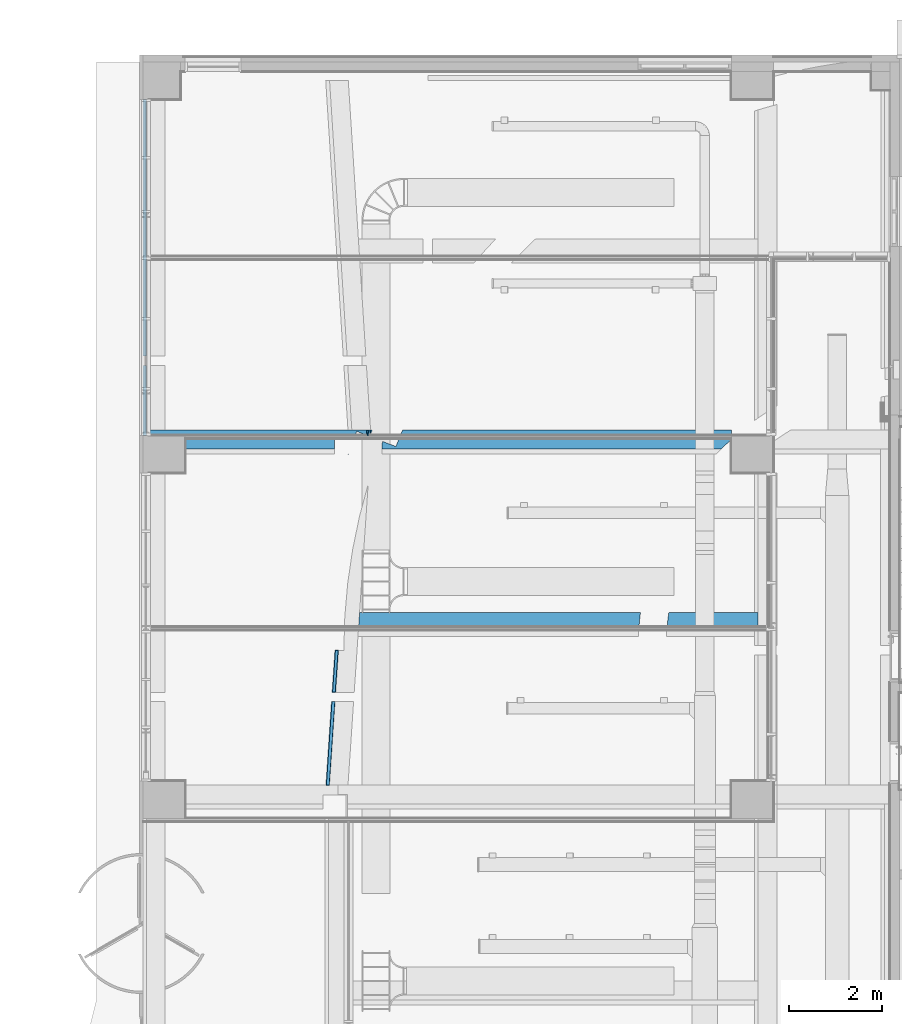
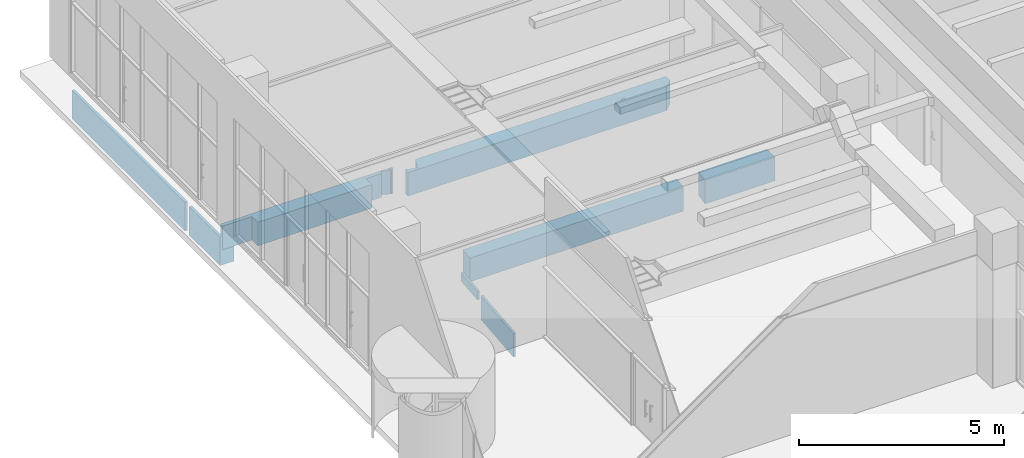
# One storey, part 56 of 100: 5 beams.
"""IFC2X3 building model written with IfcOpenShell, lengths in millimetres."""

from ifc_helpers import new_model, entity, si_unit, converted_unit, derived_unit, direction, frame, origin, place, context, subcontext, project, spatial, faceted_brep, source, transform, mapped, material, material_list, type_object, type_shapes, element, save


model = new_model("IFC2X3")

# Units and contexts
model_context = context("Model", 3, precision=0.01, world=origin(), true_north=direction((6.123031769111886e-17, 1.0)))
body_context = subcontext(model_context, "Body", "Model", "MODEL_VIEW")
ifc_project = project(units=[si_unit("LENGTHUNIT", "METRE", prefix="MILLI"), si_unit("AREAUNIT", "SQUARE_METRE"), si_unit("VOLUMEUNIT", "CUBIC_METRE"), converted_unit("PLANEANGLEUNIT", "DEGREE", entity("IfcRatioMeasure", 0.017453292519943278), si_unit("PLANEANGLEUNIT", "RADIAN"), dimensions=[0, 0, 0, 0, 0, 0, 0]), si_unit("MASSUNIT", "GRAM", prefix="KILO"), derived_unit("MASSDENSITYUNIT", [(si_unit("MASSUNIT", "GRAM", prefix="KILO"), 1), (si_unit("LENGTHUNIT", "METRE"), -3)]), derived_unit("MOMENTOFINERTIAUNIT", [(si_unit("LENGTHUNIT", "METRE"), 4)]), si_unit("TIMEUNIT", "SECOND"), si_unit("FREQUENCYUNIT", "HERTZ"), si_unit("THERMODYNAMICTEMPERATUREUNIT", "DEGREE_CELSIUS"), derived_unit("THERMALTRANSMITTANCEUNIT", [(si_unit("MASSUNIT", "GRAM", prefix="KILO"), 1), (si_unit("THERMODYNAMICTEMPERATUREUNIT", "KELVIN"), -1), (si_unit("TIMEUNIT", "SECOND"), -3)]), derived_unit("VOLUMETRICFLOWRATEUNIT", [(si_unit("LENGTHUNIT", "METRE"), 3), (si_unit("TIMEUNIT", "SECOND"), -1)]), derived_unit("MASSFLOWRATEUNIT", [(si_unit("MASSUNIT", "GRAM", prefix="KILO"), 1), (si_unit("TIMEUNIT", "SECOND"), -1)]), derived_unit("ROTATIONALFREQUENCYUNIT", [(si_unit("TIMEUNIT", "SECOND"), -1)]), si_unit("ELECTRICCURRENTUNIT", "AMPERE"), si_unit("ELECTRICVOLTAGEUNIT", "VOLT"), si_unit("POWERUNIT", "WATT"), si_unit("FORCEUNIT", "NEWTON", prefix="KILO"), si_unit("ILLUMINANCEUNIT", "LUX"), si_unit("LUMINOUSFLUXUNIT", "LUMEN"), si_unit("LUMINOUSINTENSITYUNIT", "CANDELA"), derived_unit("USERDEFINED", [(si_unit("MASSUNIT", "GRAM", prefix="KILO"), -1), (si_unit("LENGTHUNIT", "METRE"), -2), (si_unit("TIMEUNIT", "SECOND"), 3), (si_unit("LUMINOUSFLUXUNIT", "LUMEN"), 1)]), derived_unit("SOUNDPOWERUNIT", [(si_unit("MASSUNIT", "GRAM", prefix="KILO"), 1), (si_unit("LENGTHUNIT", "METRE"), 2), (si_unit("TIMEUNIT", "SECOND"), -3)]), derived_unit("SOUNDPRESSUREUNIT", [(si_unit("MASSUNIT", "GRAM", prefix="KILO"), 1), (si_unit("LENGTHUNIT", "METRE"), -1), (si_unit("TIMEUNIT", "SECOND"), -2)]), derived_unit("LINEARVELOCITYUNIT", [(si_unit("LENGTHUNIT", "METRE"), 1), (si_unit("TIMEUNIT", "SECOND"), -1)]), si_unit("PRESSUREUNIT", "PASCAL"), derived_unit("USERDEFINED", [(si_unit("LENGTHUNIT", "METRE"), -2), (si_unit("MASSUNIT", "GRAM", prefix="KILO"), 1), (si_unit("TIMEUNIT", "SECOND"), -2)]), derived_unit("LINEARFORCEUNIT", [(si_unit("MASSUNIT", "GRAM", prefix="KILO"), 1), (si_unit("LENGTHUNIT", "METRE"), 1), (si_unit("TIMEUNIT", "SECOND"), -2), (si_unit("LENGTHUNIT", "METRE"), -1)]), derived_unit("PLANARFORCEUNIT", [(si_unit("MASSUNIT", "GRAM", prefix="KILO"), 1), (si_unit("LENGTHUNIT", "METRE"), 1), (si_unit("TIMEUNIT", "SECOND"), -2), (si_unit("LENGTHUNIT", "METRE"), -2)])], contexts=[model_context])

# Site, building, storey
site_placement = place(None, frame((-14167.972527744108, -657.2125860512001, 0.0)))
site = spatial("IfcSite", under=ifc_project, at=site_placement, Name="Default", CompositionType="ELEMENT")
building_placement = place(site_placement, origin())
building = spatial("IfcBuilding", under=site, at=building_placement, Name="Sample Building", CompositionType="ELEMENT")
storey_placement = place(building_placement, origin())
storey = spatial("IfcBuildingStorey", under=building, at=storey_placement, Name="지상 1층", CompositionType="ELEMENT", Elevation=0.0)

# Beams
ifc_material = material(Name="KBIMS-콘크리트")
beam_type_1 = type_object("IfcBeamType", Name="BM111-철근콘크리트구조 보:BM110-철근 콘크리트구조 보_400 x 850_B1-1G3", PredefinedType="NOTDEFINED")
beam_1_placement = place(storey_placement, frame((14143.280586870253, 27471.077115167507, -850.0)))
element("IfcBeam", 1, at=beam_1_placement, inside=storey, type_object=beam_type_1, material=ifc_material, Name="BM111-철근콘크리트구조 보:BM110-철근 콘크리트구조 보_400 x 850_B1-1G3", ObjectType="BM111-철근콘크리트구조 보:BM110-철근 콘크리트구조 보_400 x 850_B1-1G3", context=body_context, shape_type="Brep", body=[
    faceted_brep([(4396.809318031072, 400.0, 0.0), (4314.251005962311, 400.0, 0.0), (400.0, 400.0, 0.0), (400.0, 400.0, 400.0), (0.0, 400.0, 400.0), (0.0, 400.0, 700.0), (4314.251005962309, 400.0, 700.0), (4396.809318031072, 400.0, 700.0), (4797.621306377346, 400.0, 700.0), (4797.621306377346, 400.0, 0.0), (4500.314222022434, 376.49400834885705, 0.0), (4482.945215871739, 331.3464210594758, 0.0), (4465.744698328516, 286.13550187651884, 0.0), (4024.6658619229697, 286.1355018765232, 0.0), (4024.6658619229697, 0.0, 0.0), (824.6744998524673, 0.0, 0.0), (824.6744998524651, 286.1355018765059, 0.0), (0.0, 286.1355018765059, 0.0), (0.0, 286.63548815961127, 0.0), (0.0, 286.9999862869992, 0.0), (324.7005496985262, 286.9999862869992, 0.0), (400.0, 286.9999862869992, 0.0), (4797.621306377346, 313.2726527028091, 0.0), (4792.322987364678, 299.7071077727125, 0.0), (4787.040230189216, 286.13550187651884, 0.0), (4733.887111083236, 286.13550187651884, 0.0), (824.6744998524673, 0.0, 700.0), (4024.6658619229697, 0.0, 700.0), (0.0, 286.1355018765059, 700.0), (824.6744998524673, 286.1355018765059, 700.0), (4024.6658619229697, 286.13550187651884, 700.0), (4465.744698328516, 286.13550187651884, 700.0), (4482.945215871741, 331.3464210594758, 700.0), (4500.314222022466, 376.49400834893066, 700.0), (4733.887111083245, 286.13550187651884, 700.0), (4787.0402301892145, 286.13550187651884, 700.0), (4792.322987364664, 299.70710777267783, 700.0), (4797.621306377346, 313.2726527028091, 700.0), (4500.314222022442, 376.494008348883, 451.1777741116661), (4483.398085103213, 332.5299669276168, 350.0), (4465.744698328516, 286.13550187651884, 248.82222588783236), (4792.535337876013, 300.2516833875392, 165.54916801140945), (4787.040230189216, 286.13550187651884, 175.0), (4797.621306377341, 313.27265270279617, 122.96722133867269), (4792.32298850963, 299.7071107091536, 594.8539170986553), (4797.621306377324, 313.27265270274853, 577.0327786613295), (4792.322988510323, 299.7071107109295, 402.0327786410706), (4797.621306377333, 313.2726527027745, 331.098335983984), (4797.621306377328, 313.2726527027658, 454.06555732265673), (4787.040230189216, 286.13550187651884, 577.0327786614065), (4787.040230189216, 286.13550187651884, 350.0), (4787.040230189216, 286.13550187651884, 454.06555732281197), (4792.045414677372, 298.99515736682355, 283.6587780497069), (4797.621306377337, 313.27265270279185, 208.13111464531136), (4793.163833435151, 301.863034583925, 498.44334786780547), (0.0, 286.9999862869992, 400.0), (400.0, 286.9999862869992, 400.0)], [[[0, 1, 2, 3, 4, 5, 6, 7, 8, 9]], [[10, 11, 12, 13, 14, 15, 16, 17, 18, 19, 20, 21, 2, 1, 0, 9, 22, 23, 24, 25]], [[26, 15, 14, 27]], [[5, 28, 29, 26, 27, 30, 31, 32, 33, 34, 35, 36, 37, 8, 7, 6]], [[25, 34, 33, 38, 10]], [[11, 10, 39]], [[39, 32, 31]], [[32, 39, 38]], [[40, 39, 31]], [[11, 39, 40]], [[40, 12, 11]], [[38, 39, 10]], [[38, 33, 32]], [[24, 41, 42]], [[23, 22, 43]], [[44, 45, 37, 36]], [[46, 47, 48]], [[35, 49, 44, 36]], [[50, 46, 51]], [[50, 52, 46]], [[41, 24, 23]], [[52, 41, 53]], [[44, 49, 54]], [[48, 54, 46]], [[43, 41, 23]], [[51, 54, 49]], [[41, 43, 53]], [[50, 42, 52]], [[52, 53, 47]], [[46, 52, 47]], [[41, 52, 42]], [[54, 48, 45]], [[46, 54, 51]], [[44, 54, 45]], [[17, 28, 5, 4, 55, 19, 18]], [[8, 37, 45, 48, 47, 53, 43, 22, 9]], [[17, 16, 29, 28]], [[13, 12, 40, 31, 30]], [[25, 24, 42, 50, 51, 49, 35, 34]], [[15, 26, 29, 16]], [[13, 30, 27, 14]], [[55, 56, 21, 20, 19]], [[56, 55, 4, 3]], [[21, 56, 3, 2]]]),
])
ifc_material_list_1 = material_list([ifc_material, ifc_material])
ifc_material_list_2 = material_list([ifc_material, ifc_material])
beam_type_2 = type_object("IfcBeamType", Name="BM111-철근콘크리트구조 보:BM110-철근 콘크리트구조 보_400 x 800_B1-1B2", PredefinedType="BEAM", material=ifc_material_list_2)
shared_shape_1 = source(origin(), body_context, "Body", "Brep", [
    faceted_brep([(26.84210526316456, 401.5952722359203, 0.0), (26.84210526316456, 401.5952722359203, 700.0), (6043.945265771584, 401.5952722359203, 700.0), (6043.945265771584, 401.5952722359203, 0.0), (0.0, 1.5952722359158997, 0.0), (6020.408420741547, 201.92886940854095, 0.0), (6003.46423779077, 1.5952722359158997, 0.0), (0.0, 1.5952722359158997, 700.0), (6003.46423779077, 1.5952722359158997, 700.0), (6020.408420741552, 201.92886940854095, 700.0)], [[[0, 1, 2, 3]], [[4, 0, 3, 5, 6]], [[7, 4, 6, 8]], [[4, 7, 1, 0]], [[8, 9, 2, 1, 7]], [[9, 5, 3, 2]], [[8, 6, 5, 9]]]),
    faceted_brep([(8564.681773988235, 1.5952722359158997, 700.0), (8564.681773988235, 1.5952722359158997, 0.0), (8564.681773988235, 401.5952722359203, 0.0), (8564.681773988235, 401.5952722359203, 700.0), (6605.0017498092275, 1.5952722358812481, 700.0), (6623.819216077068, 202.0066730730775, 700.0), (6623.819216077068, 202.0066730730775, 0.0), (6605.0017498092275, 1.5952722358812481, 0.0), (6649.9576495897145, 401.5952722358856, 700.0), (6649.9576495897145, 401.5952722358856, 0.0), (8489.382323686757, 401.5952722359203, 700.0), (8489.382323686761, 401.5952722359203, 0.0), (8489.382323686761, 1.5952722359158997, 0.0), (8489.382323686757, 1.5952722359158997, 700.0)], [[[0, 1, 2, 3]], [[4, 5, 6, 7]], [[6, 5, 8, 9]], [[9, 8, 10, 3, 2, 11]], [[12, 7, 6, 9, 11, 2, 1]], [[4, 7, 12, 1, 0, 13]], [[5, 4, 13, 0, 3, 10, 8]]]),
])
type_shapes(beam_type_2, [shared_shape_1])
beam_2_placement = place(storey_placement, frame((18678.564125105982, 23569.481830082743, -850.0)))
element("IfcBeam", 2, at=beam_2_placement, inside=storey, type_object=beam_type_2, material=ifc_material_list_1, Name="BM111-철근콘크리트구조 보:BM110-철근 콘크리트구조 보_400 x 800_B1-1B2", ObjectType="BM111-철근콘크리트구조 보:BM110-철근 콘크리트구조 보_400 x 800_B1-1B2", context=body_context, shape_type="MappedRepresentation", body=[
    mapped(shared_shape_1, transform((0.0, 0.0, 0.0), scale=1.0)),
])
ifc_material_list_3 = material_list([ifc_material, ifc_material])
ifc_material_list_4 = material_list([ifc_material, ifc_material])
beam_type_3 = type_object("IfcBeamType", Name="BM111-철근콘크리트구조 보:BM110-철근 콘크리트구조 보_400 x 850_B1-1G2", PredefinedType="BEAM", material=ifc_material_list_4)
shared_shape_2 = source(origin(), body_context, "Body", "Brep", [
    faceted_brep([(7726.629813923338, 287.7307741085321, 0.0), (7726.629813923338, 401.5952722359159, 0.0), (7726.629813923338, 401.5952722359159, 700.0), (7726.629813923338, 287.7307741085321, 700.0), (7726.629813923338, 203.9662181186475, 700.0), (7726.629813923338, 203.9662181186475, 0.0), (7619.2145054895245, 104.05779732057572, 700.0), (7619.214505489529, 104.05779732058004, 0.0), (7514.232735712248, 1.5952722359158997, 700.0), (7514.232735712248, 1.5952722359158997, 0.0), (247.04455554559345, 122.02825148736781, 456.987654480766), (254.97552704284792, 142.6845244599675, 403.4938272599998), (247.0445555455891, 122.02825148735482, 350.0), (262.27957790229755, 161.6111814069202, 486.02469103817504), (253.0734173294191, 137.7404947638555, 550.9872197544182), (262.2795779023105, 161.61118140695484, 700.0), (254.64514277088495, 141.82623028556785, 252.44654975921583), (247.04455554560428, 122.0282514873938, 700.0), (254.64512586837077, 141.82618637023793, 700.0), (254.64512586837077, 141.82618637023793, 0.0), (247.04455554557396, 122.02825148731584, 0.0), (247.04455554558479, 122.02825148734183, 243.0123455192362), (262.27957790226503, 161.6111814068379, 0.0), (262.2795779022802, 161.61118140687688, 243.01234551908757), (542.072909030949, 53.37213181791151, 0.0), (453.25808161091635, 87.73046505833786, 700.0), (542.0729090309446, 53.37213181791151, 700.0), (548.735978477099, 70.55697459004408, 700.0), (555.4247553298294, 87.73046505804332, 700.0), (611.203586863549, 228.03080656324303, 0.0), (618.1322482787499, 245.1092154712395, 700.0), (683.037280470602, 401.5952722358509, 700.0), (683.037280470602, 401.5952722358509, 0.0), (247.0445555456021, 1.5952722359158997, 700.0), (247.0445555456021, 1.5952722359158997, 0.0)], [[[0, 1, 2, 3, 4, 5]], [[6, 7, 5, 4]], [[8, 9, 7, 6]], [[10, 11, 12]], [[13, 14, 15]], [[12, 11, 16]], [[10, 14, 11]], [[17, 18, 14]], [[19, 20, 21]], [[22, 19, 23]], [[13, 23, 11]], [[17, 14, 10]], [[14, 13, 11]], [[16, 11, 23]], [[21, 12, 16, 19]], [[14, 18, 15]], [[19, 16, 23]], [[24, 22, 23, 13, 15, 25, 26]], [[26, 27, 24]], [[24, 28, 29]], [[28, 24, 27]], [[30, 31, 32]], [[32, 29, 30]], [[30, 29, 28]], [[33, 34, 9, 8]], [[32, 31, 2, 1]], [[24, 29, 32, 1, 0, 5, 7, 9, 34, 20, 19, 22]], [[18, 17, 33, 8, 6, 4, 3, 2, 31, 30, 28, 27, 26, 25, 15]], [[33, 17, 10, 12, 21, 20, 34]]]),
    faceted_brep([(34.298295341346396, 401.5952722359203, 0.0), (34.298295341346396, 401.5952722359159, 208.1311146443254), (19.4678162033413, 364.32287299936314, 0.0), (19.467816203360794, 364.3228729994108, 700.0), (4.755196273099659, 327.00395826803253, 700.0), (4.755196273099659, 327.00395826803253, 491.8688853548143), (4.755196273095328, 327.0039582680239, 0.0), (20.236135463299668, 366.2622835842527, 379.8619875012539), (34.298295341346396, 401.5952722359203, 700.0), (0.0, 401.5952722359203, 700.0), (0.0, 401.5952722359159, 0.0)], [[[0, 1, 2]], [[3, 4, 5]], [[6, 2, 7]], [[7, 3, 5]], [[1, 7, 2]], [[7, 5, 6]], [[3, 7, 8]], [[7, 1, 8]], [[6, 5, 4, 9, 10]], [[10, 9, 8, 1, 0]], [[6, 10, 0, 2]], [[3, 8, 9, 4]]]),
])
type_shapes(beam_type_3, [shared_shape_2])
beam_3_placement = place(storey_placement, frame((18940.90189324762, 27469.481842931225, -850.0)))
element("IfcBeam", 3, at=beam_3_placement, inside=storey, type_object=beam_type_3, material=ifc_material_list_3, Name="BM111-철근콘크리트구조 보:BM110-철근 콘크리트구조 보_400 x 850_B1-1G2", ObjectType="BM111-철근콘크리트구조 보:BM110-철근 콘크리트구조 보_400 x 850_B1-1G2", context=body_context, shape_type="MappedRepresentation", body=[
    mapped(shared_shape_2, transform((0.0, 0.0, 0.0), scale=1.0)),
])
ifc_material_list_5 = material_list([ifc_material, ifc_material])
ifc_material_list_6 = material_list([ifc_material, ifc_material])
beam_type_4 = type_object("IfcBeamType", Name="BM111-철근콘크리트구조 보:BM110-철근 콘크리트구조 보_400 x 850_B1-1G2", PredefinedType="BEAM", material=ifc_material_list_6)
shared_shape_3 = source(origin(), body_context, "Body", "Brep", [
    faceted_brep([(0.0, 7199.0, 0.0), (0.0, 7199.0, 850.0), (75.29945030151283, 7199.0, 850.0), (75.29945030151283, 7199.0, 0.0), (0.0, 1699.4997046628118, 850.0), (75.29945030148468, 1699.4997046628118, 850.0), (0.0, 1699.4997046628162, 0.0), (75.29945030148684, 1699.4997046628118, 0.0), (0.0, 1699.4997046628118, 700.0)], [[[0, 1, 2, 3]], [[1, 4, 5, 2]], [[6, 0, 3, 7]], [[1, 0, 6, 8, 4]], [[4, 8, 6, 7, 5]], [[3, 2, 5, 7]]]),
    faceted_brep([(0.0, 0.0, 850.0), (0.0, 0.0, 0.0), (400.0, 0.0, 0.0), (400.0, 0.0, 450.0), (75.29945030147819, 0.0, 450.0), (75.29945030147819, 0.0, 850.0), (0.0, 1499.499704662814, 700.0), (0.0, 1499.499704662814, 850.0), (75.29945030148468, 1499.4997046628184, 850.0), (75.29945030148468, 1499.499704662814, 0.0), (0.0, 1499.499704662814, 0.0), (75.29945030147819, 0.3644981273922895, 850.0), (400.0, 0.3644981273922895, 0.0), (400.0, 0.3644981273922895, 450.0), (75.29945030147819, 0.3644981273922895, 0.0), (75.29945030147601, 0.3644981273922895, 450.0)], [[[0, 1, 2, 3, 4, 5]], [[6, 7, 8, 9, 10]], [[7, 0, 5, 11, 8]], [[2, 12, 13, 3]], [[2, 1, 10, 9, 14, 12]], [[1, 0, 7, 6, 10]], [[12, 14, 15, 13]], [[9, 8, 11, 5, 4, 15, 14]], [[15, 4, 3, 13]]]),
])
type_shapes(beam_type_4, [shared_shape_3])
beam_4_placement = place(storey_placement, frame((14067.981136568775, 27757.712603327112, -1300.0)))
element("IfcBeam", 4, at=beam_4_placement, inside=storey, type_object=beam_type_4, material=ifc_material_list_5, Name="BM111-철근콘크리트구조 보:BM110-철근 콘크리트구조 보_400 x 850_B1-1G2", ObjectType="BM111-철근콘크리트구조 보:BM110-철근 콘크리트구조 보_400 x 850_B1-1G2", context=body_context, shape_type="MappedRepresentation", body=[
    mapped(shared_shape_3, transform((0.0, 0.0, 0.0), scale=1.0)),
])
ifc_material_list_7 = material_list([ifc_material, ifc_material, ifc_material, ifc_material])
ifc_material_list_8 = material_list([ifc_material, ifc_material, ifc_material, ifc_material])
beam_type_5 = type_object("IfcBeamType", Name="BM111-철근콘크리트구조 보:BM110-철근 콘크리트구조 보_400 x 850_B1-1G4", PredefinedType="BEAM", material=ifc_material_list_8)
shared_shape_4 = source(origin(), body_context, "Body", "Brep", [
    faceted_brep([(67.65854319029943, 0.0, 0.0), (0.0, 0.0, 0.0), (119.85907214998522, 1786.1351928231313, 0.0), (187.51761534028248, 1786.1351928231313, 0.0), (0.0, 0.0, 700.0), (119.85907214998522, 1786.1351928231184, 700.0), (67.65854319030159, 0.0, 700.0), (187.51761534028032, 1786.1351928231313, 700.0)], [[[0, 1, 2, 3]], [[1, 4, 5, 2]], [[4, 6, 7, 5]], [[4, 1, 0, 6]], [[3, 2, 5, 7]], [[6, 0, 3, 7]]]),
    faceted_brep([(910.8996116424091, 7600.0, 0.0), (869.784978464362, 7600.0, 0.0), (869.784978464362, 7600.0, 700.0), (910.8996116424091, 7600.0, 700.0), (876.7514069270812, 7490.72269095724, 0.0), (876.7514069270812, 7490.722690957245, 700.0), (903.2587045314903, 7486.135501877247, 0.0), (903.2587045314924, 7486.135501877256, 700.0), (888.6090952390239, 7486.135501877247, 0.0), (888.6090952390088, 7486.135501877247, 700.0)], [[[0, 1, 2, 3]], [[1, 4, 5, 2]], [[6, 0, 3, 7]], [[1, 0, 6, 8, 4]], [[8, 6, 7, 9]], [[5, 4, 8, 9]], [[3, 2, 5, 9, 7]]]),
    faceted_brep([(475.5169876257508, 7086.13550187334, 700.0), (476.5687945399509, 7086.13550187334, 700.0), (476.5687945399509, 7086.135501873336, 684.448610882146), (476.5687945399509, 7086.135501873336, 668.8972217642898), (476.5687945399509, 7086.135501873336, 653.3458326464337), (476.5687945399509, 7086.13550187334, 637.7944435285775), (476.5687945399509, 7086.135501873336, 622.2430544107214), (476.5687945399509, 7086.135501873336, 606.6916652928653), (476.56879453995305, 7086.13550187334, 591.1402761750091), (476.56879453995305, 7086.135501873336, 575.588887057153), (476.56879453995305, 7086.135501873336, 560.0374979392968), (476.56879453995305, 7086.13550187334, 544.4861088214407), (476.56879453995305, 7086.135501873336, 528.9347197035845), (476.56879453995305, 7086.135501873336, 513.3833305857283), (476.56879453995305, 7086.135501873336, 497.83194146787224), (476.5687945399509, 7086.13550187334, 482.280552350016), (476.5687945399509, 7086.13550187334, 466.72916323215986), (476.5687945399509, 7086.13550187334, 451.1777741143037), (476.56879453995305, 7086.135501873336, 437.0784686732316), (476.56879453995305, 7086.13550187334, 422.9791632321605), (476.56879453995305, 7086.13550187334, 408.8798577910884), (476.5687945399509, 7086.13550187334, 394.78055235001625), (476.56879453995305, 7086.13550187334, 380.6812469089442), (476.56879453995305, 7086.13550187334, 366.5819414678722), (476.56879453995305, 7086.13550187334, 352.4826360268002), (476.56879453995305, 7086.135501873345, 338.38333058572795), (476.56879453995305, 7086.13550187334, 324.2840251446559), (476.5687945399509, 7086.13550187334, 310.18471970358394), (476.56879453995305, 7086.135501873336, 296.0854142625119), (476.56879453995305, 7086.13550187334, 281.9861088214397), (476.56879453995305, 7086.135501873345, 267.88680338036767), (476.56879453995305, 7086.135501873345, 253.7874979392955), (476.56879453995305, 7086.13550187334, 239.6881924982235), (476.56879453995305, 7086.135501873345, 225.5888870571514), (476.56879453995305, 7086.13550187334, 211.4895816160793), (476.56879453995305, 7086.13550187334, 197.39027617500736), (476.56879453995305, 7086.13550187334, 183.29097073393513), (476.56879453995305, 7086.13550187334, 169.19166529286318), (476.56879453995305, 7086.135501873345, 155.0923598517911), (476.56879453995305, 7086.135501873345, 140.993054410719), (476.56879453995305, 7086.135501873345, 126.89374896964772), (476.56879453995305, 7086.135501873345, 112.79444352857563), (476.56879453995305, 7086.135501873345, 98.69513808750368), (476.56879453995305, 7086.135501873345, 84.5958326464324), (476.5687945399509, 7086.135501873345, 70.49652720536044), (476.56879453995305, 7086.135501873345, 56.39722176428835), (476.56879453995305, 7086.135501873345, 42.29791632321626), (476.5687945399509, 7086.135501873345, 28.198610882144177), (476.5687945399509, 7086.135501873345, 15.551389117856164), (476.5687945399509, 7086.13550187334, 0.0), (475.5169876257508, 7086.13550187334, 0.0), (475.9327664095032, 7084.271955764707, 148.04270713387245), (475.90887980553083, 7084.201950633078, 222.64460836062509), (475.9139920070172, 7084.216933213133, 700.0), (475.91399200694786, 7084.216933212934, 676.672916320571), (475.9139920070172, 7084.216933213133, 0.0), (475.91399200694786, 7084.216933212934, 645.5701380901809), (475.9139920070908, 7084.216933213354, 628.3030052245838), (476.01478524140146, 7084.512320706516, 330.49501422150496), (475.2594886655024, 7082.298262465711, 76.56250000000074), (476.0294567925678, 7084.5553156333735, 78.38802955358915), (475.2594886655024, 7082.298262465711, 87.50000000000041), (475.2594886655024, 7082.298262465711, 700.0), (475.2594886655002, 7082.298262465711, 684.4486108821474), (475.2594886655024, 7082.298262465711, 668.8972217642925), (475.2594886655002, 7082.298262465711, 653.3458326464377), (475.2594886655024, 7082.298262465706, 637.7944435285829), (475.25948866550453, 7082.298262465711, 623.69513808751), (475.2594886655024, 7082.298262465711, 609.5958326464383), (475.2594886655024, 7082.298262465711, 0.0), (475.2594886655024, 7082.298262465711, 21.875000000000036), (475.9257629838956, 7084.251430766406, 474.5048577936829), (475.90075336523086, 7084.17813395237, 492.29906010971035), (475.2594886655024, 7082.298262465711, 481.2500000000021), (475.8176511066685, 7083.934572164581, 588.4605644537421), (475.93015524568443, 7084.2643032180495, 384.29569621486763), (475.9017274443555, 7084.180988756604, 401.8302050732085), (475.2594886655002, 7082.298262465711, 393.7500000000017), (475.25948866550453, 7082.298262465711, 415.6250000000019), (475.82415033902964, 7083.953621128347, 426.5624999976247), (475.25948866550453, 7082.298262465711, 437.50000000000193), (475.2594886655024, 7082.298262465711, 459.37500000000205), (475.7831631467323, 7083.833487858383, 35.56506095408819), (475.92843768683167, 7084.259269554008, 49.34756904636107), (475.2594886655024, 7082.298262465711, 43.750000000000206), (475.8884181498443, 7084.141982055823, 602.5461799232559), (475.8167543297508, 7083.931943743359, 560.2472714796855), (475.8770757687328, 7084.108739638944, 546.1489581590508), (475.94459357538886, 7084.306617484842, 442.9167396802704), (475.88316039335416, 7084.126572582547, 116.81619776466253), (475.97222076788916, 7084.387582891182, 132.32265592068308), (475.2594886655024, 7082.298262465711, 503.12500000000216), (475.2594886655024, 7082.298262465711, 218.75000000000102), (475.25948866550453, 7082.298262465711, 196.87500000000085), (475.90533468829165, 7084.191560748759, 207.8124999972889), (476.00035838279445, 7084.470042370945, 303.26950268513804), (475.9359969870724, 7084.281423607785, 289.0357615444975), (475.2594886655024, 7082.298262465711, 262.5000000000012), (475.7553316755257, 7083.751911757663, 275.59319120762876), (475.2594886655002, 7082.298262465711, 284.37500000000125), (475.97251380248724, 7084.388441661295, 65.0422947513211), (475.25948866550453, 7082.298262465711, 65.62500000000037), (475.9559685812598, 7084.33995376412, 661.1215272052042), (475.94544659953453, 7084.309117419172, 21.87500000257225), (475.87611285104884, 7084.105917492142, 574.3475690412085), (475.93996163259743, 7084.293042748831, 522.7720027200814), (475.9230670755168, 7084.243529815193, 185.93749999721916), (475.2594886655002, 7082.298262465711, 175.0), (475.9395663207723, 7084.291884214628, 91.64548536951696), (475.8816108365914, 7084.122031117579, 359.53228875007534), (475.91037455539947, 7084.20633137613, 343.993721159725), (475.90580723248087, 7084.19294566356, 171.2001022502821), (475.2594886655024, 7082.298262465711, 131.25000000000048), (475.92369127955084, 7084.245359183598, 246.7378452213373), (475.9725482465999, 7084.388542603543, 262.4158586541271), (475.2594886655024, 7082.298262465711, 240.62500000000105), (475.25948866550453, 7082.298262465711, 350.0), (475.2594886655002, 7082.298262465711, 306.25000000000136), (475.85979048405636, 7084.058079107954, 317.23437242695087), (475.2594886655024, 7082.298262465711, 153.12500000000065), (475.2594886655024, 7082.298262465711, 109.37500000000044), (475.9614114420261, 7084.355904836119, 458.95346867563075), (475.92431332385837, 7084.247182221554, 507.6146103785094), (475.2594886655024, 7082.298262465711, 525.0), (475.2594886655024, 7082.298262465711, 371.8750000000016), (475.2594886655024, 7082.298262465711, 539.099305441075), (475.2594886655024, 7082.298262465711, 553.1986108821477), (475.2594886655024, 7082.298262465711, 567.2979163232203), (475.2594886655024, 7082.298262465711, 581.397221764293), (475.2594886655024, 7082.298262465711, 595.4965272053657), (475.25948866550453, 7082.298262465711, 328.1250000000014)], [[[0, 1, 2, 3, 4, 5, 6, 7, 8, 9, 10, 11, 12, 13, 14, 15, 16, 17, 18, 19, 20, 21, 22, 23, 24, 25, 26, 27, 28, 29, 30, 31, 32, 33, 34, 35, 36, 37, 38, 39, 40, 41, 42, 43, 44, 45, 46, 47, 48, 49, 50]], [[38, 51, 39]], [[33, 32, 52, 34]], [[2, 1, 53, 54, 3]], [[55, 49, 48]], [[5, 4, 56, 57, 6]], [[25, 58, 26]], [[59, 60, 61]], [[53, 62, 63, 64, 54]], [[56, 65, 66, 67, 68, 57]], [[69, 55, 70]], [[71, 72, 73]], [[9, 8, 74]], [[75, 76, 77]], [[16, 15, 71]], [[78, 79, 80]], [[73, 81, 71]], [[82, 83, 84]], [[57, 85, 6]], [[10, 86, 87]], [[18, 88, 79]], [[42, 41, 40, 89]], [[90, 39, 51]], [[72, 91, 73]], [[92, 93, 94]], [[95, 96, 28]], [[94, 34, 52]], [[83, 82, 46]], [[97, 98, 99]], [[90, 89, 40]], [[83, 100, 101]], [[102, 56, 4]], [[70, 55, 103]], [[84, 70, 82]], [[68, 85, 57]], [[74, 104, 9]], [[48, 103, 55]], [[103, 48, 47]], [[46, 45, 83]], [[82, 47, 46]], [[47, 82, 103]], [[44, 60, 100]], [[101, 84, 83]], [[64, 65, 102]], [[64, 102, 54]], [[102, 4, 3]], [[10, 87, 12, 11]], [[45, 100, 83]], [[87, 105, 12]], [[106, 94, 93]], [[106, 93, 107]], [[60, 108, 61]], [[59, 101, 100]], [[65, 56, 102]], [[54, 102, 3]], [[76, 75, 21]], [[109, 110, 24]], [[103, 82, 70]], [[81, 80, 88]], [[7, 6, 85, 8]], [[100, 45, 44]], [[37, 36, 111, 38]], [[106, 111, 36]], [[112, 90, 51]], [[111, 106, 107]], [[52, 92, 94]], [[35, 94, 106]], [[113, 31, 114]], [[113, 114, 97]], [[115, 92, 52]], [[31, 113, 32]], [[115, 52, 113]], [[32, 113, 52]], [[115, 113, 97]], [[98, 96, 99]], [[114, 30, 98]], [[98, 30, 29]], [[116, 110, 109]], [[117, 95, 118]], [[114, 31, 30]], [[28, 96, 29]], [[99, 96, 117]], [[96, 98, 29]], [[114, 98, 97]], [[111, 107, 119]], [[119, 112, 51]], [[111, 51, 38]], [[119, 51, 111]], [[40, 39, 90]], [[120, 108, 89]], [[89, 108, 42]], [[112, 89, 90]], [[42, 108, 43]], [[61, 108, 120]], [[43, 108, 60]], [[43, 60, 44]], [[100, 60, 59]], [[88, 121, 81]], [[121, 16, 71]], [[16, 121, 17]], [[72, 14, 122]], [[105, 123, 122]], [[15, 72, 71]], [[91, 72, 122]], [[88, 17, 121]], [[81, 121, 71]], [[19, 18, 79, 20]], [[20, 79, 76]], [[21, 20, 76]], [[80, 79, 88]], [[109, 23, 75]], [[76, 78, 77]], [[78, 76, 79]], [[24, 23, 109]], [[22, 21, 75, 23]], [[75, 77, 124]], [[18, 17, 88]], [[91, 122, 123]], [[72, 15, 14]], [[13, 122, 14]], [[87, 125, 105]], [[13, 105, 122]], [[125, 87, 126]], [[126, 87, 86]], [[104, 127, 86]], [[127, 104, 128]], [[9, 104, 10]], [[74, 85, 129]], [[129, 128, 74]], [[129, 85, 68]], [[126, 86, 127]], [[104, 86, 10]], [[85, 74, 8]], [[104, 74, 128]], [[130, 58, 110]], [[24, 110, 25]], [[109, 124, 116]], [[124, 109, 75]], [[26, 118, 27]], [[110, 116, 130]], [[58, 118, 26]], [[27, 118, 95]], [[118, 130, 117]], [[27, 95, 28]], [[96, 95, 117]], [[118, 58, 130]], [[110, 58, 25]], [[36, 35, 106]], [[94, 35, 34]], [[120, 89, 112]], [[125, 123, 105]], [[12, 105, 13]], [[50, 49, 55, 69]], [[50, 69, 70, 84, 101, 59, 61, 120, 112, 119, 107, 93, 92, 115, 97, 99, 117, 130, 116, 124, 77, 78, 80, 81, 73, 91, 123, 125, 126, 127, 128, 129, 68, 67, 66, 65, 64, 63, 62, 0]], [[53, 1, 0, 62]]]),
    faceted_brep([(261.33340481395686, 2886.1351928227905, 700.0), (200.93866797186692, 1986.135192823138, 700.0), (200.93866797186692, 1986.1351928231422, 450.0), (261.3334048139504, 2886.1351928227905, 450.0), (133.28012478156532, 1986.135192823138, 700.0), (133.2801247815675, 1986.1351928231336, 450.0), (193.6748616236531, 2886.1351928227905, 700.0), (193.6748616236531, 2886.1351928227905, 450.0)], [[[0, 1, 2, 3]], [[1, 4, 5, 2]], [[4, 6, 7, 5]], [[4, 1, 0, 6]], [[6, 0, 3, 7]], [[3, 2, 5, 7]]]),
])
type_shapes(beam_type_5, [shared_shape_4])
beam_5_placement = place(storey_placement, frame((17988.558602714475, 20271.07711516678, -850.0)))
element("IfcBeam", 5, at=beam_5_placement, inside=storey, type_object=beam_type_5, material=ifc_material_list_7, Name="BM111-철근콘크리트구조 보:BM110-철근 콘크리트구조 보_400 x 850_B1-1G4", ObjectType="BM111-철근콘크리트구조 보:BM110-철근 콘크리트구조 보_400 x 850_B1-1G4", context=body_context, shape_type="MappedRepresentation", body=[
    mapped(shared_shape_4, transform((0.0, 0.0, 0.0), scale=1.0)),
])

save(model, "model.ifc")
